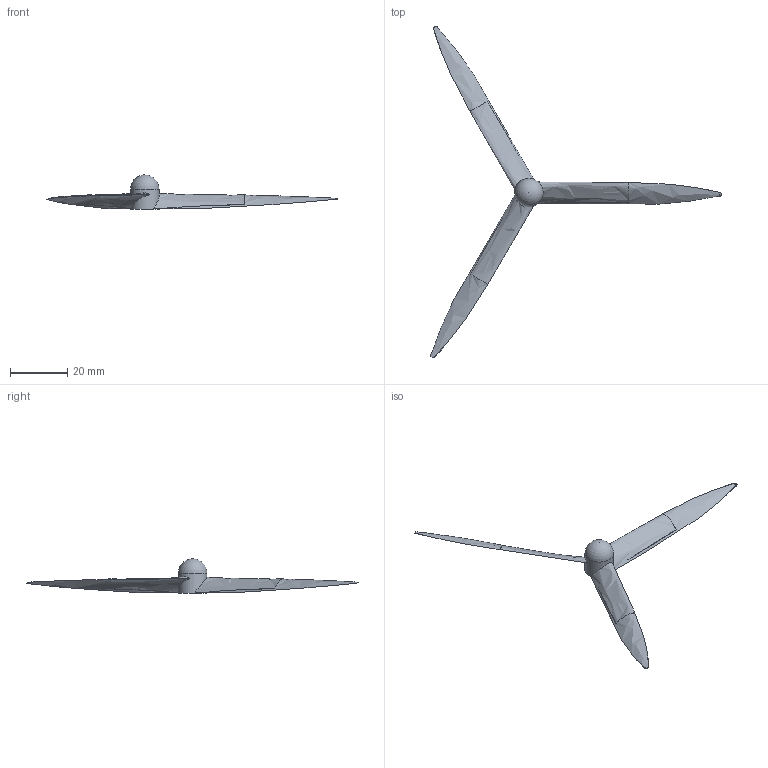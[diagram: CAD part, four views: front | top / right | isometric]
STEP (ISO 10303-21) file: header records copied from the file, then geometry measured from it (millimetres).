
FILE_DESCRIPTION(/* description */ (''),/* implementation_level */ '2;1');
FILE_NAME(/* name */ 'C:\Users\Sergio\Desktop\Modelo\\Helice_ipt_2b266b7d.STEP',/* time_stamp */ '2021-06-15T09:34:22+02:00',/* author */ ('Sergio'),/* organization */ (''),/* preprocessor_version */ 'ST-DEVELOPER v18',/* originating_system */ 'Autodesk Inventor 2020',/* authorisation */ '');
FILE_SCHEMA (('AUTOMOTIVE_DESIGN { 1 0 10303 214 3 1 1 }'));
Length unit declared in the file: millimetre
Products named in the file (1): Helice
Bounding box: 101.92 x 116.35 x 12 mm (x, y, z)
Volume: 1242.4 mm3; surface area: 3382.2 mm2
Topology: 1 solids, 1 shells, 23 faces, 71 edges, 53 vertices
Faces by surface type: bspline 16, plane 4, cylinder 2, sphere 1
Full cylindrical faces by diameter (mm): 2.3 x1, 10 x1
Entity records: 5707 total; most frequent: CARTESIAN_POINT 5156, ORIENTED_EDGE 130, EDGE_CURVE 65, DIRECTION 52, B_SPLINE_CURVE_WITH_KNOTS 49, VERTEX_POINT 48, EDGE_LOOP 27, AXIS2_PLACEMENT_3D 25
